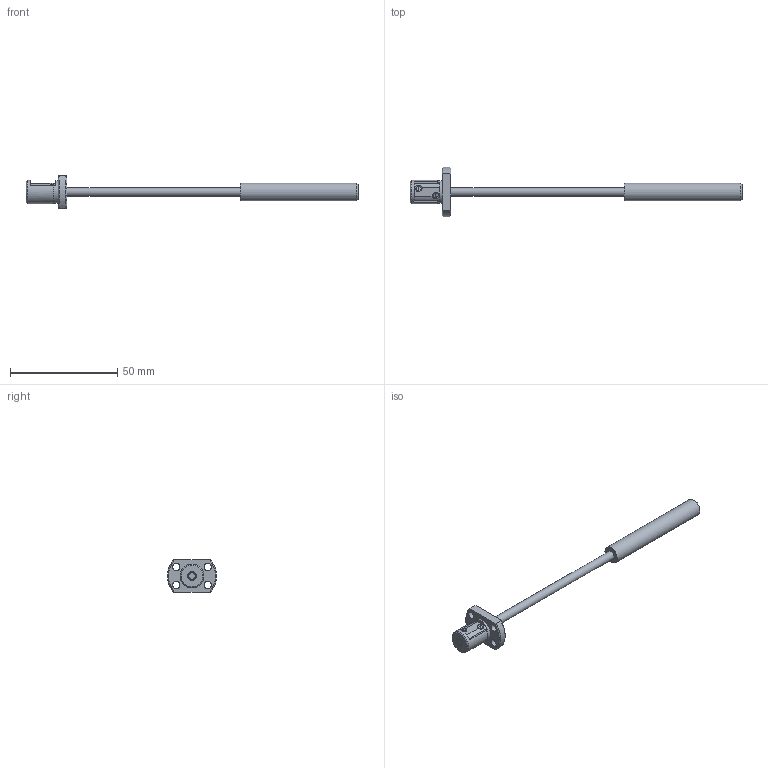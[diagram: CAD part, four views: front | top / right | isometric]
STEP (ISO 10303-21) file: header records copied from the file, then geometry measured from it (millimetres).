
FILE_DESCRIPTION( ( 'STEP AP203' ), '1' );
FILE_NAME( 'e:/temp/worker_92/temp/exporttempdir_144_1708_wG7ZF/format_0/SRT0402-096R155C7A0X(0None).stp', '2021-10-19T05:19:07', ( 'License CC BY-ND 4.0' ), ( 'CADENAS' ), ' ', 'PARTsolutions', ' ' );
FILE_SCHEMA( ( 'CONFIG_CONTROL_DESIGN' ) );
Length unit declared in the file: millimetre
Products named in the file (3): SRT0402-096R155C7A0X(0None); _SRT0402-96R155ACt7NoneShaft; _SRT0402Nut
Assembly tree (2 placements, depth 2):
  SRT0402-096R155C7A0X(0None)
    _SRT0402-96R155ACt7NoneShaft
    _SRT0402Nut
Bounding box: 155 x 22.93 x 15 mm (x, y, z)
Volume: 6316.7 mm3; surface area: 4512.4 mm2
Topology: 2 solids, 2 shells, 50 faces, 130 edges, 86 vertices
Faces by surface type: plane 24, cylinder 15, cone 11
Full cylindrical faces by diameter (mm): 1 x2, 3.4 x4, 4 x2, 8.2 x1, 10.6 x1, 11 x1
Entity records: 1540 total; most frequent: CARTESIAN_POINT 319, DIRECTION 238, ORIENTED_EDGE 202, AXIS2_PLACEMENT_3D 102, EDGE_CURVE 101, EDGE_LOOP 80, VERTEX_POINT 75, FACE_OUTER_BOUND 61
